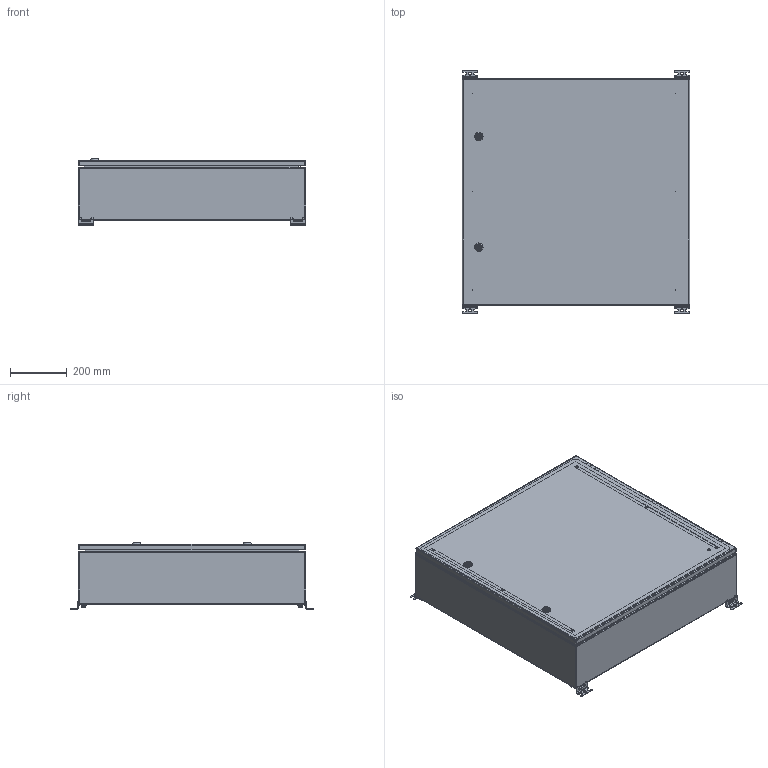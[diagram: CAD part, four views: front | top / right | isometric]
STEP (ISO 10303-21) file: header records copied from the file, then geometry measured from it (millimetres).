
FILE_DESCRIPTION(('STEP AP242'), '1');
FILE_NAME('400 ﾙﾌﾏ-1 (IP-56)', '', ('UNSPECIFIED'), ('UNSPECIFIED'), 'C3D Converter', 'C3D Toolkit', '');
FILE_SCHEMA(('AP242_MANAGED_MODEL_BASED_3D_ENGINEERING_MIM_LF { 1 0 10303 442 1 1 4 }'));
Length unit declared in the file: millimetre
Products named in the file (36): ЩМП-1 СБ; 410; 420; 421; 411; 412; 490; 491; 401; 440; 441; 402
Assembly tree (97 placements, depth 4):
  ЩМП-1 СБ
    410
      420
        421
        (unnamed)  x6
        (unnamed)
      411
      412
    490  x2
      491
      (unnamed)
      (unnamed)
      (unnamed)
      (unnamed)
      (unnamed)
    490  x2
      491
      (unnamed)
      (unnamed)
      (unnamed)
      (unnamed)
      (unnamed)
    401
    (unnamed)  x6
    (unnamed)  x6
    (unnamed)  x6
    (unnamed)  x3
      (unnamed)
      (unnamed)
      (unnamed)
    (unnamed)  x6
    440
      441
      (unnamed)
      (unnamed)  x6
      (unnamed)  x3
    402  x2
    (unnamed)  x6
    (unnamed)  x6
    (unnamed)  x2
      (unnamed)
      (unnamed)
      (unnamed)
      (unnamed)
      (unnamed)
    (unnamed)  x2
Bounding box: 800 x 856 x 233.1 mm (x, y, z)
Volume: 4740160.1 mm3; surface area: 5676807.4 mm2
Topology: 113 solids, 113 shells, 2411 faces, 5770 edges, 3646 vertices
Faces by surface type: plane 1327, cylinder 728, cone 210, extrusion 54, bspline 32, torus 30, sphere 30
Full cylindrical faces by diameter (mm): 0.5 x6, 2.6 x8, 3.5 x104, 4.2 x6, 4.917 x6, 5 x8, 5.5 x6, 5.8 x2, 6 x22, 6.4 x6, 6.647 x10, 7 x9, 7.3 x6, 7.5 x9, 8 x13, 8.4 x10, 8.5 x18, 9 x8, 10 x12, 10.4 x2, 10.5 x6, 11 x12, 11.4 x1, 11.5 x6, 12 x2, 12.3 x4, 15 x10, 15.5 x4, 15.8 x2, 16 x8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
Entity records: 64829 total; most frequent: CARTESIAN_POINT 34641, DIRECTION 4952, ORIENTED_EDGE 4780, EDGE_CURVE 2390, AXIS2_PLACEMENT_3D 1806, VERTEX_POINT 1598, EDGE_LOOP 1418, VECTOR 1340
